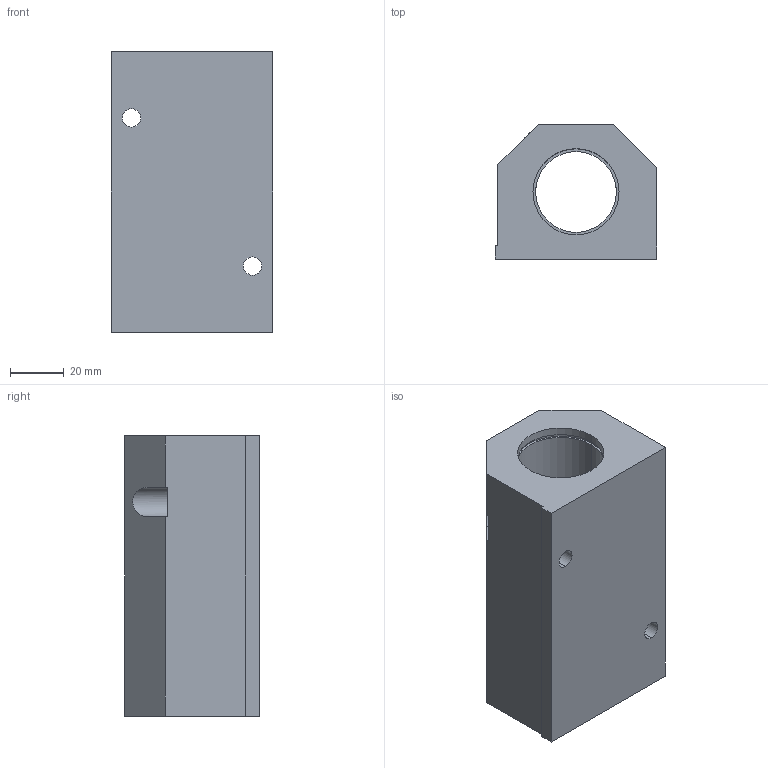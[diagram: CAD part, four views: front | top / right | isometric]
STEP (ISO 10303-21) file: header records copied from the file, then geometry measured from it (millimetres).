
FILE_DESCRIPTION (( 'STEP AP214' ), '1' );
FILE_NAME ('KTG85-20.step', '2020-03-04T13:25:45', ( '' ), ( '' ), 'SwSTEP 2.0', 'SolidWorks 2019', '' );
FILE_SCHEMA (( 'AUTOMOTIVE_DESIGN' ));
Length unit declared in the file: millimetre
Products named in the file (1): KTG85-20
Bounding box: 60 x 50 x 104 mm (x, y, z)
Volume: 194321.8 mm3; surface area: 37794.7 mm2
Topology: 1 solids, 1 shells, 48 faces, 114 edges, 74 vertices
Faces by surface type: cylinder 24, plane 22, cone 2
Entity records: 1562 total; most frequent: CARTESIAN_POINT 299, DIRECTION 252, ORIENTED_EDGE 228, EDGE_CURVE 114, AXIS2_PLACEMENT_3D 93, VERTEX_POINT 74, LINE 66, VECTOR 66
